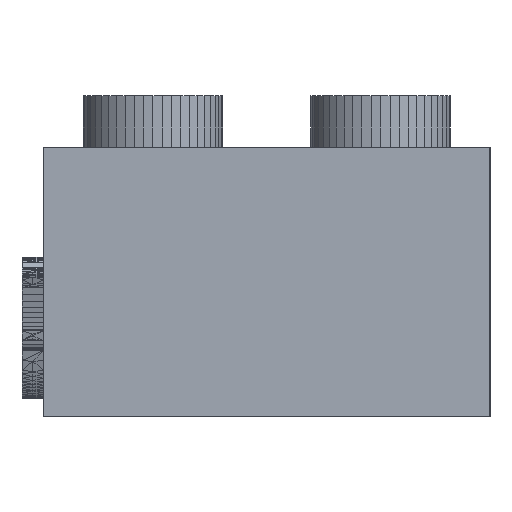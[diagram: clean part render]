
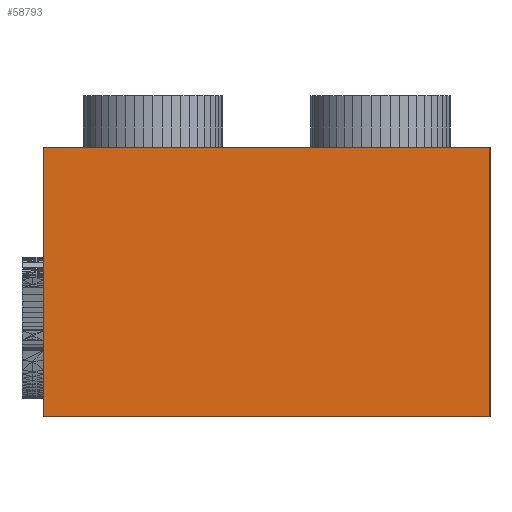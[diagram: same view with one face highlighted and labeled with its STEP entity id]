
A CAD part, left-side view. The second image highlights one B-rep face of the part: STEP entity #58793.
In plain terms, the highlighted planar face has unit normal (-1, 0, 0).
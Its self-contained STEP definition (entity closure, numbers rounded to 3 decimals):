
#44 = PLANE('',#45);
#45 = AXIS2_PLACEMENT_3D('',#46,#47,#48);
#46 = CARTESIAN_POINT('',(29.681,15.799,1.982)
  );
#47 = DIRECTION('',(0.,1.,0.));
#48 = DIRECTION('',(0.,-0.,1.));
#29725 = VERTEX_POINT('',#29726);
#29726 = CARTESIAN_POINT('',(0.,15.799,0.));
#29742 = PLANE('',#29743);
#29743 = AXIS2_PLACEMENT_3D('',#29744,#29745,#29746);
#29744 = CARTESIAN_POINT('',(1.321,1.321,0.));
#29745 = DIRECTION('',(-0.,0.,-1.));
#29746 = DIRECTION('',(-1.,0.,0.));
#29754 = EDGE_CURVE('',#29725,#29755,#29757,.T.);
#29755 = VERTEX_POINT('',#29756);
#29756 = CARTESIAN_POINT('',(0.,15.799,
    9.525));
#29757 = SURFACE_CURVE('',#29758,(#29762,#29769),.PCURVE_S1.);
#29758 = LINE('',#29759,#29760);
#29759 = CARTESIAN_POINT('',(0.,15.799,0.));
#29760 = VECTOR('',#29761,1.);
#29761 = DIRECTION('',(0.,0.,1.));
#29762 = PCURVE('',#44,#29763);
#29763 = DEFINITIONAL_REPRESENTATION('',(#29764),#29768);
#29764 = LINE('',#29765,#29766);
#29765 = CARTESIAN_POINT('',(-1.982,-29.681));
#29766 = VECTOR('',#29767,1.);
#29767 = DIRECTION('',(1.,0.));
#29768 = ( GEOMETRIC_REPRESENTATION_CONTEXT(2) 
PARAMETRIC_REPRESENTATION_CONTEXT() REPRESENTATION_CONTEXT('2D SPACE',''
  ) );
#29769 = PCURVE('',#29770,#29775);
#29770 = PLANE('',#29771);
#29771 = AXIS2_PLACEMENT_3D('',#29772,#29773,#29774);
#29772 = CARTESIAN_POINT('',(0.,15.799,0.));
#29773 = DIRECTION('',(-1.,0.,0.));
#29774 = DIRECTION('',(0.,-1.,0.));
#29775 = DEFINITIONAL_REPRESENTATION('',(#29776),#29780);
#29776 = LINE('',#29777,#29778);
#29777 = CARTESIAN_POINT('',(0.,0.));
#29778 = VECTOR('',#29779,1.);
#29779 = DIRECTION('',(0.,1.));
#29780 = ( GEOMETRIC_REPRESENTATION_CONTEXT(2) 
PARAMETRIC_REPRESENTATION_CONTEXT() REPRESENTATION_CONTEXT('2D SPACE',''
  ) );
#29798 = PLANE('',#29799);
#29799 = AXIS2_PLACEMENT_3D('',#29800,#29801,#29802);
#29800 = CARTESIAN_POINT('',(30.292,12.263,
    9.525));
#29801 = DIRECTION('',(-0.,0.,1.));
#29802 = DIRECTION('',(1.,0.,0.));
#29900 = PLANE('',#29901);
#29901 = AXIS2_PLACEMENT_3D('',#29902,#29903,#29904);
#29902 = CARTESIAN_POINT('',(0.,0.,0.));
#29903 = DIRECTION('',(0.,-1.,0.));
#29904 = DIRECTION('',(0.,-0.,-1.));
#29916 = VERTEX_POINT('',#29917);
#29917 = CARTESIAN_POINT('',(0.,0.,0.));
#29940 = VERTEX_POINT('',#29941);
#29941 = CARTESIAN_POINT('',(0.,0.,9.525));
#29962 = EDGE_CURVE('',#29916,#29940,#29963,.T.);
#29963 = SURFACE_CURVE('',#29964,(#29968,#29975),.PCURVE_S1.);
#29964 = LINE('',#29965,#29966);
#29965 = CARTESIAN_POINT('',(0.,0.,0.));
#29966 = VECTOR('',#29967,1.);
#29967 = DIRECTION('',(0.,0.,1.));
#29968 = PCURVE('',#29900,#29969);
#29969 = DEFINITIONAL_REPRESENTATION('',(#29970),#29974);
#29970 = LINE('',#29971,#29972);
#29971 = CARTESIAN_POINT('',(0.,0.));
#29972 = VECTOR('',#29973,1.);
#29973 = DIRECTION('',(-1.,0.));
#29974 = ( GEOMETRIC_REPRESENTATION_CONTEXT(2) 
PARAMETRIC_REPRESENTATION_CONTEXT() REPRESENTATION_CONTEXT('2D SPACE',''
  ) );
#29975 = PCURVE('',#29770,#29976);
#29976 = DEFINITIONAL_REPRESENTATION('',(#29977),#29981);
#29977 = LINE('',#29978,#29979);
#29978 = CARTESIAN_POINT('',(15.799,0.));
#29979 = VECTOR('',#29980,1.);
#29980 = DIRECTION('',(0.,1.));
#29981 = ( GEOMETRIC_REPRESENTATION_CONTEXT(2) 
PARAMETRIC_REPRESENTATION_CONTEXT() REPRESENTATION_CONTEXT('2D SPACE',''
  ) );
#31278 = EDGE_CURVE('',#29755,#29940,#31279,.T.);
#31279 = SURFACE_CURVE('',#31280,(#31284,#31291),.PCURVE_S1.);
#31280 = LINE('',#31281,#31282);
#31281 = CARTESIAN_POINT('',(0.,15.799,
    9.525));
#31282 = VECTOR('',#31283,1.);
#31283 = DIRECTION('',(0.,-1.,0.));
#31284 = PCURVE('',#29798,#31285);
#31285 = DEFINITIONAL_REPRESENTATION('',(#31286),#31290);
#31286 = LINE('',#31287,#31288);
#31287 = CARTESIAN_POINT('',(-30.292,3.536));
#31288 = VECTOR('',#31289,1.);
#31289 = DIRECTION('',(0.,-1.));
#31290 = ( GEOMETRIC_REPRESENTATION_CONTEXT(2) 
PARAMETRIC_REPRESENTATION_CONTEXT() REPRESENTATION_CONTEXT('2D SPACE',''
  ) );
#31291 = PCURVE('',#29770,#31292);
#31292 = DEFINITIONAL_REPRESENTATION('',(#31293),#31297);
#31293 = LINE('',#31294,#31295);
#31294 = CARTESIAN_POINT('',(0.,9.525));
#31295 = VECTOR('',#31296,1.);
#31296 = DIRECTION('',(1.,0.));
#31297 = ( GEOMETRIC_REPRESENTATION_CONTEXT(2) 
PARAMETRIC_REPRESENTATION_CONTEXT() REPRESENTATION_CONTEXT('2D SPACE',''
  ) );
#58793 = ADVANCED_FACE('',(#58794),#29770,.T.);
#58794 = FACE_BOUND('',#58795,.T.);
#58795 = EDGE_LOOP('',(#58796,#58817,#58818,#58819));
#58796 = ORIENTED_EDGE('',*,*,#58797,.T.);
#58797 = EDGE_CURVE('',#29725,#29916,#58798,.T.);
#58798 = SURFACE_CURVE('',#58799,(#58803,#58810),.PCURVE_S1.);
#58799 = LINE('',#58800,#58801);
#58800 = CARTESIAN_POINT('',(0.,15.799,0.));
#58801 = VECTOR('',#58802,1.);
#58802 = DIRECTION('',(0.,-1.,0.));
#58803 = PCURVE('',#29770,#58804);
#58804 = DEFINITIONAL_REPRESENTATION('',(#58805),#58809);
#58805 = LINE('',#58806,#58807);
#58806 = CARTESIAN_POINT('',(0.,0.));
#58807 = VECTOR('',#58808,1.);
#58808 = DIRECTION('',(1.,0.));
#58809 = ( GEOMETRIC_REPRESENTATION_CONTEXT(2) 
PARAMETRIC_REPRESENTATION_CONTEXT() REPRESENTATION_CONTEXT('2D SPACE',''
  ) );
#58810 = PCURVE('',#29742,#58811);
#58811 = DEFINITIONAL_REPRESENTATION('',(#58812),#58816);
#58812 = LINE('',#58813,#58814);
#58813 = CARTESIAN_POINT('',(1.321,14.478));
#58814 = VECTOR('',#58815,1.);
#58815 = DIRECTION('',(0.,-1.));
#58816 = ( GEOMETRIC_REPRESENTATION_CONTEXT(2) 
PARAMETRIC_REPRESENTATION_CONTEXT() REPRESENTATION_CONTEXT('2D SPACE',''
  ) );
#58817 = ORIENTED_EDGE('',*,*,#29962,.T.);
#58818 = ORIENTED_EDGE('',*,*,#31278,.F.);
#58819 = ORIENTED_EDGE('',*,*,#29754,.F.);
